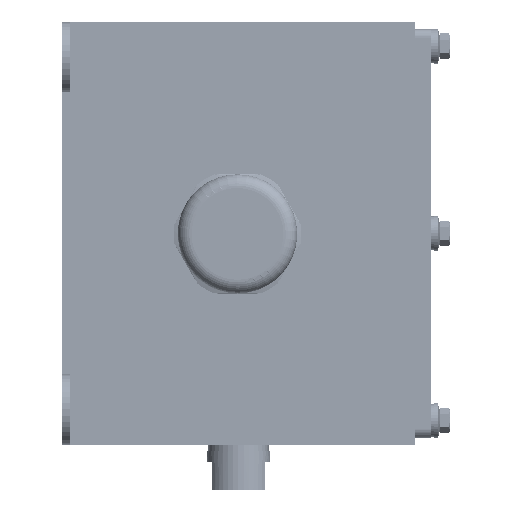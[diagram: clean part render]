
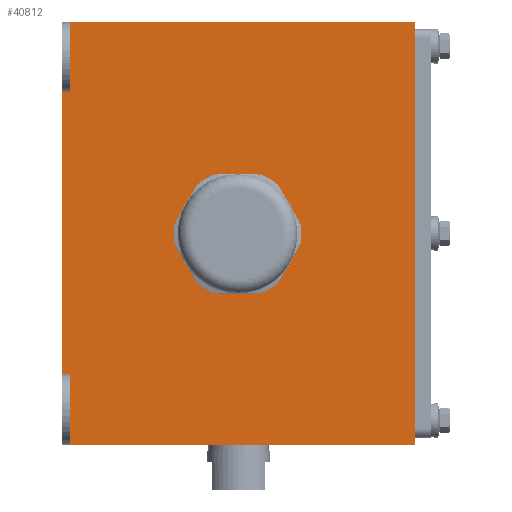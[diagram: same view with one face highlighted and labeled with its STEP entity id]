
A CAD part, front view. The second image highlights one B-rep face of the part: STEP entity #40812.
In plain terms, the highlighted planar face has unit normal (0, -1, 0).
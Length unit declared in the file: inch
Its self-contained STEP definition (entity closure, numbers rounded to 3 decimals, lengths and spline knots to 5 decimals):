
#58 = VERTEX_POINT ( 'NONE', #31244 ) ;
#1485 = ORIENTED_EDGE ( 'NONE', *, *, #77514, .F. ) ;
#2203 = LINE ( 'NONE', #23994, #70995 ) ;
#2483 = CARTESIAN_POINT ( 'NONE',  ( 2.5, -8.5, 3. ) ) ;
#2607 = DIRECTION ( 'NONE',  ( 0., 0., -1. ) ) ;
#2755 = EDGE_CURVE ( 'NONE', #66267, #70765, #92096, .T. ) ;
#3099 = LINE ( 'NONE', #26894, #24617 ) ;
#3507 = ORIENTED_EDGE ( 'NONE', *, *, #2755, .T. ) ;
#4209 = DIRECTION ( 'NONE',  ( -1., 0., 0. ) ) ;
#5036 = FACE_OUTER_BOUND ( 'NONE', #35172, .T. ) ;
#6061 = DIRECTION ( 'NONE',  ( 0., 0., 1. ) ) ;
#6249 = DIRECTION ( 'NONE',  ( 0., -1., 0. ) ) ;
#7792 = CARTESIAN_POINT ( 'NONE',  ( 0., -8.5, 0. ) ) ;
#15704 = EDGE_CURVE ( 'NONE', #50436, #58, #3099, .T. ) ;
#17345 = EDGE_CURVE ( 'NONE', #43265, #28980, #55762, .T. ) ;
#17680 = LINE ( 'NONE', #80715, #33853 ) ;
#23994 = CARTESIAN_POINT ( 'NONE',  ( -0.98039, -8.5, 2. ) ) ;
#24617 = VECTOR ( 'NONE', #2607, 39.37008 ) ;
#24711 = CARTESIAN_POINT ( 'NONE',  ( -2.5, -8.5, -3. ) ) ;
#26421 = DIRECTION ( 'NONE',  ( 0., 0., -1. ) ) ;
#26894 = CARTESIAN_POINT ( 'NONE',  ( -2.3946, -8.5, -3. ) ) ;
#28980 = VERTEX_POINT ( 'NONE', #42017 ) ;
#30200 = ORIENTED_EDGE ( 'NONE', *, *, #64944, .T. ) ;
#31002 = LINE ( 'NONE', #37757, #58720 ) ;
#31244 = CARTESIAN_POINT ( 'NONE',  ( -2.3946, -8.5, -3. ) ) ;
#31527 = DIRECTION ( 'NONE',  ( 0., 0., -1. ) ) ;
#33077 = LINE ( 'NONE', #55394, #35143 ) ;
#33148 = EDGE_CURVE ( 'NONE', #39668, #58, #81711, .T. ) ;
#33853 = VECTOR ( 'NONE', #26421, 39.37008 ) ;
#34609 = AXIS2_PLACEMENT_3D ( 'NONE', #7792, #6249, #31527 ) ;
#34717 = ORIENTED_EDGE ( 'NONE', *, *, #17345, .T. ) ;
#34977 = ORIENTED_EDGE ( 'NONE', *, *, #66914, .F. ) ;
#35143 = VECTOR ( 'NONE', #94136, 39.37008 ) ;
#35172 = EDGE_LOOP ( 'NONE', ( #3507, #48176, #30200, #34717, #44346, #40549, #79230, #1485 ) ) ;
#36243 = CARTESIAN_POINT ( 'NONE',  ( 2.5, -8.5, 3. ) ) ;
#37757 = CARTESIAN_POINT ( 'NONE',  ( 2.5, -8.5, -3. ) ) ;
#39514 = EDGE_LOOP ( 'NONE', ( #34977 ) ) ;
#39668 = VERTEX_POINT ( 'NONE', #92263 ) ;
#40549 = ORIENTED_EDGE ( 'NONE', *, *, #15704, .T. ) ;
#40812 = ADVANCED_FACE ( 'NONE', ( #60884, #5036 ), #45360, .F. ) ;
#42017 = CARTESIAN_POINT ( 'NONE',  ( -2.5, -8.5, -2. ) ) ;
#42777 = VECTOR ( 'NONE', #54206, 39.37008 ) ;
#43265 = VERTEX_POINT ( 'NONE', #63455 ) ;
#43308 = VECTOR ( 'NONE', #4209, 39.37008 ) ;
#44346 = ORIENTED_EDGE ( 'NONE', *, *, #50215, .F. ) ;
#45360 = PLANE ( 'NONE',  #93042 ) ;
#47520 = CARTESIAN_POINT ( 'NONE',  ( -2.3946, -8.5, 2. ) ) ;
#48176 = ORIENTED_EDGE ( 'NONE', *, *, #77185, .T. ) ;
#50215 = EDGE_CURVE ( 'NONE', #50436, #28980, #33077, .T. ) ;
#50436 = VERTEX_POINT ( 'NONE', #68071 ) ;
#54206 = DIRECTION ( 'NONE',  ( 0., 0., -1. ) ) ;
#55394 = CARTESIAN_POINT ( 'NONE',  ( -0.98039, -8.5, -2. ) ) ;
#55762 = LINE ( 'NONE', #24711, #42777 ) ;
#58720 = VECTOR ( 'NONE', #94091, 39.37008 ) ;
#60884 = FACE_BOUND ( 'NONE', #39514, .T. ) ;
#63455 = CARTESIAN_POINT ( 'NONE',  ( -2.5, -8.5, 2. ) ) ;
#64015 = CARTESIAN_POINT ( 'NONE',  ( 0., -8.5, -0.74803 ) ) ;
#64359 = CARTESIAN_POINT ( 'NONE',  ( -2.3946, -8.5, 3. ) ) ;
#64944 = EDGE_CURVE ( 'NONE', #66141, #43265, #2203, .T. ) ;
#66141 = VERTEX_POINT ( 'NONE', #47520 ) ;
#66267 = VERTEX_POINT ( 'NONE', #2483 ) ;
#66914 = EDGE_CURVE ( 'NONE', #88283, #88283, #77559, .T. ) ;
#68071 = CARTESIAN_POINT ( 'NONE',  ( -2.3946, -8.5, -2. ) ) ;
#70765 = VERTEX_POINT ( 'NONE', #64359 ) ;
#70995 = VECTOR ( 'NONE', #72514, 39.37008 ) ;
#72514 = DIRECTION ( 'NONE',  ( -1., 0., 0. ) ) ;
#75480 = DIRECTION ( 'NONE',  ( -1., 0., 0. ) ) ;
#76872 = CARTESIAN_POINT ( 'NONE',  ( 2.5, -8.5, -3. ) ) ;
#77185 = EDGE_CURVE ( 'NONE', #70765, #66141, #17680, .T. ) ;
#77514 = EDGE_CURVE ( 'NONE', #66267, #39668, #31002, .T. ) ;
#77559 = CIRCLE ( 'NONE', #34609, 0.74803 ) ;
#79230 = ORIENTED_EDGE ( 'NONE', *, *, #33148, .F. ) ;
#80715 = CARTESIAN_POINT ( 'NONE',  ( -2.3946, -8.5, 3. ) ) ;
#81711 = LINE ( 'NONE', #97737, #89547 ) ;
#88283 = VERTEX_POINT ( 'NONE', #64015 ) ;
#89547 = VECTOR ( 'NONE', #75480, 39.37008 ) ;
#90847 = DIRECTION ( 'NONE',  ( 0., 1., 0. ) ) ;
#92096 = LINE ( 'NONE', #36243, #43308 ) ;
#92263 = CARTESIAN_POINT ( 'NONE',  ( 2.5, -8.5, -3. ) ) ;
#93042 = AXIS2_PLACEMENT_3D ( 'NONE', #76872, #90847, #6061 ) ;
#94091 = DIRECTION ( 'NONE',  ( 0., 0., -1. ) ) ;
#94136 = DIRECTION ( 'NONE',  ( -1., 0., 0. ) ) ;
#97737 = CARTESIAN_POINT ( 'NONE',  ( 2.5, -8.5, -3. ) ) ;
